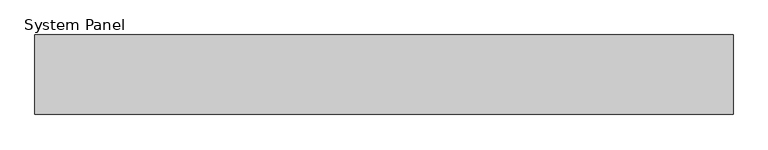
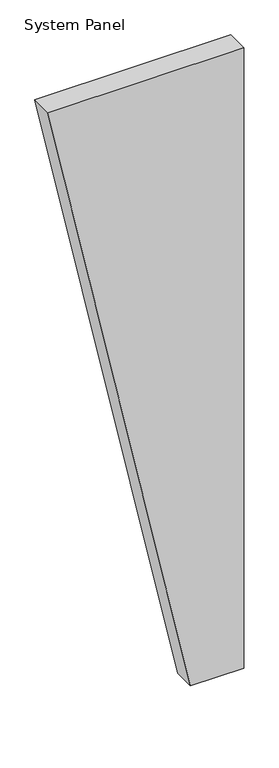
"""IFC4 building model written with IfcOpenShell, lengths in millimetres: plate geometry, System Panel : MetecnoPanel_125mm_Plain_Surfmist."""

import ifcopenshell
import ifcopenshell.guid

model = None  # the IFC model being written
_history = None  # IfcOwnerHistory: only IFC2X3 demands one
_inside = {}  # id of a spatial element -> (the spatial element, [elements in it])
_under = {}  # id of a project, library or spatial element -> (it, [spatial elements below it])
_declared = {}  # id of a project -> (the project, [libraries it declares])
_typed = {}  # id of a type object -> (the type object, [elements of that type])
_made_of = {}  # id of a material, layer set ... -> (it, [elements and type objects made of it])


def new_model(schema):
    """Start an empty IFC model of exactly this schema.

    Asked for "IFC4X3", IfcOpenShell would pick the latest addendum, in which some entities
    have other attributes; the version numbers below select the first issue.
    IFC2X3 requires an IfcOwnerHistory on every rooted entity: one is made here for all.
    """
    global model, _history
    if schema == "IFC4X3":
        model = ifcopenshell.file(schema_version=(4, 3, 0, 0))
    else:
        model = ifcopenshell.file(schema=schema)
    _inside.clear()
    _under.clear()
    _declared.clear()
    _typed.clear()
    _made_of.clear()
    _history = None
    if model.schema == "IFC2X3":
        org = make("IfcOrganization", Name="unknown")
        user = make(
            "IfcPersonAndOrganization",
            ThePerson=make("IfcPerson", FamilyName="unknown"),
            TheOrganization=org,
        )
        app = make(
            "IfcApplication",
            ApplicationDeveloper=org,
            Version="unknown",
            ApplicationFullName="unknown",
            ApplicationIdentifier="unknown",
        )
        _history = make(
            "IfcOwnerHistory",
            OwningUser=user,
            OwningApplication=app,
            ChangeAction="ADDED",
            CreationDate=0,
        )
    return model


def make(cls, **values):
    """One entity of the class cls with the attributes given. An attribute that is None is left unset."""
    return model.create_entity(
        cls, **{name: value for name, value in values.items() if value is not None}
    )


def rooted(cls, **values):
    """An entity with a GlobalId (a new one), such as an element, a storey or a relation."""
    return make(cls, GlobalId=ifcopenshell.guid.new(), OwnerHistory=_history, **values)


def si_unit(unit_type, name, prefix=None):
    """IfcSIUnit, for example si_unit("LENGTHUNIT", "METRE", prefix="MILLI")."""
    return make("IfcSIUnit", UnitType=unit_type, Prefix=prefix, Name=name)


def assignment(units):
    """IfcUnitAssignment: the units of a project."""
    return None if units is None else make("IfcUnitAssignment", Units=units)


def point(xyz):
    """IfcCartesianPoint."""
    return None if xyz is None else make("IfcCartesianPoint", Coordinates=xyz)


def direction(xyz):
    """IfcDirection."""
    return None if xyz is None else make("IfcDirection", DirectionRatios=xyz)


def frame(location, z_axis=None, x_axis=None):
    """IfcAxis2Placement3D, a coordinate frame: its origin and axes. An axis left out is left unset."""
    return make(
        "IfcAxis2Placement3D",
        Location=point(location),
        Axis=direction(z_axis),
        RefDirection=direction(x_axis),
    )


def origin():
    """The frame at (0, 0, 0) with its axes left unset."""
    return frame((0.0, 0.0, 0.0))


def place(relative_to, where):
    """IfcLocalPlacement: puts the frame where relative to a parent placement (None: the world)."""
    return make(
        "IfcLocalPlacement", PlacementRelTo=relative_to, RelativePlacement=where
    )


def context(
    kind, dimensions, precision=None, world=None, true_north=None, identifier=None
):
    """IfcGeometricRepresentationContext, for example the 3D "Model" context."""
    return make(
        "IfcGeometricRepresentationContext",
        ContextIdentifier=identifier,
        ContextType=kind,
        CoordinateSpaceDimension=dimensions,
        Precision=precision,
        WorldCoordinateSystem=world,
        TrueNorth=true_north,
    )


def project(units=None, contexts=None):
    """IfcProject with its units and contexts."""
    return rooted(
        "IfcProject",
        Name="project",
        RepresentationContexts=contexts,
        UnitsInContext=assignment(units),
    )


def spatial(cls, under=None, at=None, **own):
    """A site, building, storey or space (cls), placed at a placement, below another one or the project."""
    s = rooted(cls, ObjectPlacement=at, **own)
    if under is not None:
        _under.setdefault(under.id(), (under, []))[1].append(s)
    return s


def polyline(points):
    """IfcPolyline through the points."""
    return make("IfcPolyline", Points=[point(p) for p in points])


def outline(outer, holes=None, kind="AREA"):
    """IfcArbitraryClosedProfileDef: a profile drawn as a closed curve; with holes, ...WithVoids."""
    if holes is None:
        return make("IfcArbitraryClosedProfileDef", ProfileType=kind, OuterCurve=outer)
    return make(
        "IfcArbitraryProfileDefWithVoids",
        ProfileType=kind,
        OuterCurve=outer,
        InnerCurves=holes,
    )


def extrude(swept, where, along, depth):
    """IfcExtrudedAreaSolid: the profile swept, set in the frame where, extruded along a direction by depth."""
    return make(
        "IfcExtrudedAreaSolid",
        SweptArea=swept,
        Position=where,
        ExtrudedDirection=direction(along),
        Depth=depth,
    )


def shape(context_of_items, identifier, shape_type, items):
    """IfcShapeRepresentation: the items that make up one representation, for example the "Body"."""
    return make(
        "IfcShapeRepresentation",
        ContextOfItems=context_of_items,
        RepresentationIdentifier=identifier,
        RepresentationType=shape_type,
        Items=items,
    )


def source(mapping_origin, context_of_items, identifier, shape_type, items):
    """IfcRepresentationMap: a shape defined once, which mapped items show again and again."""
    return make(
        "IfcRepresentationMap",
        MappingOrigin=mapping_origin,
        MappedRepresentation=shape(context_of_items, identifier, shape_type, items),
    )


def transform(
    local_origin,
    x_axis=None,
    y_axis=None,
    z_axis=None,
    scale=None,
    scale2=None,
    scale3=None,
    uniform=True,
):
    """IfcCartesianTransformationOperator3D, or its non-uniform kind. x_axis, y_axis, z_axis: its Axis1, 2, 3."""
    if uniform:
        return make(
            "IfcCartesianTransformationOperator3D",
            Axis1=direction(x_axis),
            Axis2=direction(y_axis),
            LocalOrigin=point(local_origin),
            Scale=scale,
            Axis3=direction(z_axis),
        )
    return make(
        "IfcCartesianTransformationOperator3DnonUniform",
        Axis1=direction(x_axis),
        Axis2=direction(y_axis),
        LocalOrigin=point(local_origin),
        Scale=scale,
        Axis3=direction(z_axis),
        Scale2=scale2,
        Scale3=scale3,
    )


def mapped(mapping_source, mapping_target):
    """IfcMappedItem: shows the shape of a source again, moved by a transform."""
    return make(
        "IfcMappedItem", MappingSource=mapping_source, MappingTarget=mapping_target
    )


def made_of(thing, what):
    """Note that an element or type object is made of a material, layer set ...; save() writes the relation."""
    if what is not None:
        _made_of.setdefault(what.id(), (what, []))[1].append(thing)
    return thing


def element(
    cls,
    number,
    at=None,
    inside=None,
    cuts=None,
    type_object=None,
    material=None,
    context=None,
    identifier="Body",
    shape_type=None,
    held_by="IfcProductDefinitionShape",
    body=None,
    shapes=None,
    **own,
):
    """One element of the class cls, such as IfcWall. Its Tag is "e" and its number.

    at: its placement. inside: the storey or other place that contains it. cuts: it is an
    opening in that element (IfcRelVoidsElement). A single representation is given by context,
    identifier, shape_type and body (its items); several are given by shapes. held_by: the class
    of the entity that holds the representations. save() writes the other relations.
    """
    e = rooted(cls, Tag="e%d" % number, ObjectPlacement=at, **own)
    if body is not None:
        shapes = [shape(context, identifier, shape_type, body)]
    if shapes is not None:
        e.Representation = make(held_by, Representations=shapes)
    if inside is not None:
        _inside.setdefault(inside.id(), (inside, []))[1].append(e)
    if cuts is not None:
        rooted(
            "IfcRelVoidsElement", RelatingBuildingElement=cuts, RelatedOpeningElement=e
        )
    if type_object is not None:
        _typed.setdefault(type_object.id(), (type_object, []))[1].append(e)
    return made_of(e, material)


def aggregate(whole, parts):
    """IfcRelAggregates: a whole, such as a stair, and the parts it consists of."""
    return rooted("IfcRelAggregates", RelatingObject=whole, RelatedObjects=parts)


def save(model, path):
    """Write the relations noted so far, then the file.

    IfcRelAggregates (storeys below a building ...), IfcRelContainedInSpatialStructure (elements
    in a storey), IfcRelDefinesByType, IfcRelAssociatesMaterial and IfcRelDeclares: one each for
    every whole, place, type object, material and project.
    """
    for whole, parts in _under.values():
        aggregate(whole, parts)
    for where, things in _inside.values():
        rooted(
            "IfcRelContainedInSpatialStructure",
            RelatedElements=things,
            RelatingStructure=where,
        )
    for kind, things in _typed.values():
        rooted("IfcRelDefinesByType", RelatedObjects=things, RelatingType=kind)
    for what, things in _made_of.values():
        rooted("IfcRelAssociatesMaterial", RelatedObjects=things, RelatingMaterial=what)
    for by, libraries in _declared.values():
        rooted("IfcRelDeclares", RelatingContext=by, RelatedDefinitions=libraries)
    model.write(path)


def system_panel_7e7ab7b5(model_context):
    return source(origin(), model_context, "Body", "SweptSolid", [
        extrude(outline(polyline([(0.0, 250.0), (0.0, 550.0), (3679.9704237, 550.0), (3679.9704237, -550.0), (0.0, 250.0)])), frame((0.0, -125.0, 0.0), z_axis=(0.0, 1.0, 0.0), x_axis=(0.0, 0.0, 1.0)), (0.0, 0.0, 1.0), 125.0),
    ])


if __name__ == "__main__":
    model = new_model("IFC4")
    model_context = context("Model", 3, world=origin())
    ifc_project = project(units=[si_unit("LENGTHUNIT", "METRE", prefix="MILLI")], contexts=[model_context])
    site = spatial("IfcSite", under=ifc_project)
    building = spatial("IfcBuilding", under=site)
    placement = place(None, origin())
    system_panel_shape = system_panel_7e7ab7b5(model_context)
    element("IfcPlate", 1, ObjectType="System Panel : MetecnoPanel_125mm_Plain_Surfmist", at=placement, inside=building, context=model_context, shape_type="MappedRepresentation", body=[
        mapped(system_panel_shape, transform((0.0, 0.0, 0.0), x_axis=(1.0, 0.0, 0.0), y_axis=(0.0, 1.0, 0.0), z_axis=(0.0, 0.0, 1.0))),
    ])
    save(model, "model.ifc")
